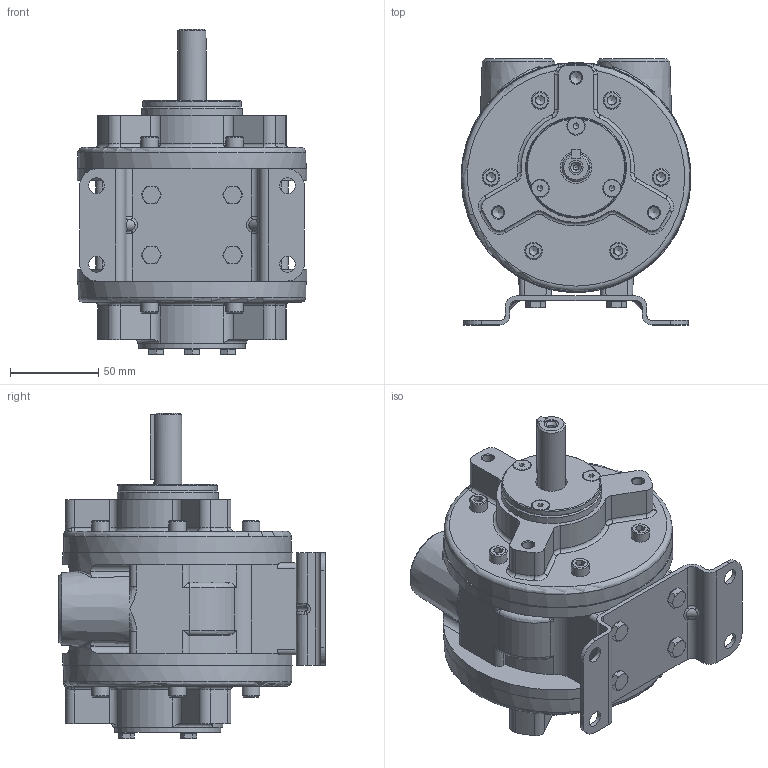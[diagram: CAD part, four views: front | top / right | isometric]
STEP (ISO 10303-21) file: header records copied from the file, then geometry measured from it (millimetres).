
FILE_DESCRIPTION (( 'STEP AP214' ), '1' );
FILE_NAME ('VA6J Defeature.STEP', '2022-06-14T08:51:05', ( '' ), ( '' ), 'SwSTEP 2.0', 'SolidWorks 2020', '' );
FILE_SCHEMA (( 'AUTOMOTIVE_DESIGN' ));
Length unit declared in the file: millimetre
Products named in the file (1): VA6J Defeature
Bounding box: 130 x 150.4 x 184.25 mm (x, y, z)
Volume: 1289655.2 mm3; surface area: 116848.9 mm2
Topology: 1 solids, 4 shells, 764 faces, 1874 edges, 1136 vertices
Faces by surface type: plane 385, cylinder 162, cone 97, bspline 64, torus 49, sphere 7
Full cylindrical faces by diameter (mm): 3 x1, 5 x3, 5.5 x3, 6.528 x3, 8 x4, 9 x4, 9.64 x3, 10 x16, 15.875 x1, 18 x1, 24.117 x2, 56 x1, 57.15 x1, 60 x1, 128 x2, 129 x2, 130 x2
Entity records: 30523 total; most frequent: CARTESIAN_POINT 10392, ORIENTED_EDGE 3412, DIRECTION 3405, EDGE_CURVE 1706, AXIS2_PLACEMENT_3D 1311, VERTEX_POINT 1074, EDGE_LOOP 904, FACE_OUTER_BOUND 817
